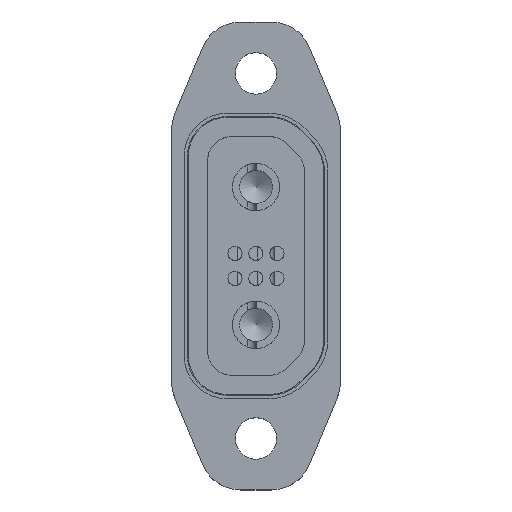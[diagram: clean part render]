
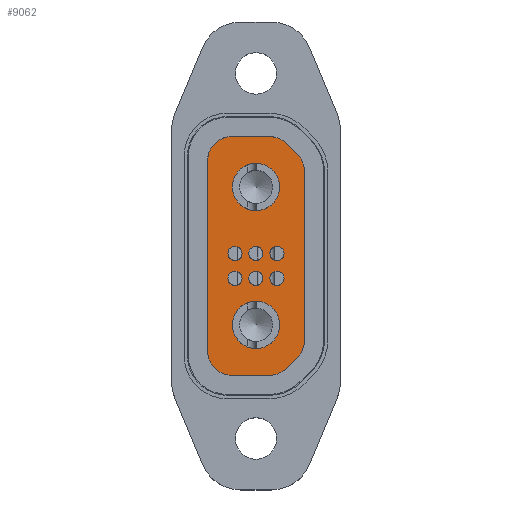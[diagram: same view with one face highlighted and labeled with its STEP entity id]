
A CAD part, top view. The second image highlights one B-rep face of the part: STEP entity #9062.
In plain terms, the highlighted planar face has unit normal (0, 0, 1).
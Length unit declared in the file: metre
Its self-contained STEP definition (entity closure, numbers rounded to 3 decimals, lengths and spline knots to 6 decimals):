
#385=CIRCLE('',#9674,0.0025);
#386=CIRCLE('',#9675,0.0025);
#387=CIRCLE('',#9676,0.00085);
#388=CIRCLE('',#9677,0.00085);
#389=CIRCLE('',#9678,0.00085);
#390=CIRCLE('',#9679,0.00085);
#391=CIRCLE('',#9680,0.00085);
#392=CIRCLE('',#9681,0.00085);
#393=CIRCLE('',#9682,0.0032);
#394=CIRCLE('',#9683,0.0032);
#395=CIRCLE('',#9684,0.0032);
#396=CIRCLE('',#9685,0.0032);
#397=CIRCLE('',#9686,0.003);
#398=CIRCLE('',#9687,0.003);
#1093=ORIENTED_EDGE('',*,*,#3763,.F.);
#1094=ORIENTED_EDGE('',*,*,#3764,.F.);
#1095=ORIENTED_EDGE('',*,*,#3765,.F.);
#1096=ORIENTED_EDGE('',*,*,#3766,.F.);
#1097=ORIENTED_EDGE('',*,*,#3767,.F.);
#1098=ORIENTED_EDGE('',*,*,#3768,.F.);
#1099=ORIENTED_EDGE('',*,*,#3769,.F.);
#1100=ORIENTED_EDGE('',*,*,#3770,.F.);
#1101=ORIENTED_EDGE('',*,*,#3771,.F.);
#1102=ORIENTED_EDGE('',*,*,#3772,.F.);
#1103=ORIENTED_EDGE('',*,*,#3773,.F.);
#1104=ORIENTED_EDGE('',*,*,#3774,.F.);
#1105=ORIENTED_EDGE('',*,*,#3775,.F.);
#1106=ORIENTED_EDGE('',*,*,#3776,.F.);
#1107=ORIENTED_EDGE('',*,*,#3777,.F.);
#1108=ORIENTED_EDGE('',*,*,#3778,.T.);
#1109=ORIENTED_EDGE('',*,*,#3779,.F.);
#1110=ORIENTED_EDGE('',*,*,#3780,.T.);
#1111=ORIENTED_EDGE('',*,*,#3781,.F.);
#1112=ORIENTED_EDGE('',*,*,#3782,.T.);
#3763=EDGE_CURVE('',#5090,#5090,#385,.T.);
#3764=EDGE_CURVE('',#5091,#5091,#386,.T.);
#3765=EDGE_CURVE('',#5092,#5092,#387,.T.);
#3766=EDGE_CURVE('',#5093,#5093,#388,.T.);
#3767=EDGE_CURVE('',#5094,#5094,#389,.T.);
#3768=EDGE_CURVE('',#5095,#5095,#390,.T.);
#3769=EDGE_CURVE('',#5096,#5096,#391,.T.);
#3770=EDGE_CURVE('',#5097,#5097,#392,.T.);
#3771=EDGE_CURVE('',#5098,#5099,#393,.T.);
#3772=EDGE_CURVE('',#5100,#5098,#5996,.T.);
#3773=EDGE_CURVE('',#5101,#5100,#394,.T.);
#3774=EDGE_CURVE('',#5102,#5101,#5997,.T.);
#3775=EDGE_CURVE('',#5103,#5102,#395,.T.);
#3776=EDGE_CURVE('',#5104,#5103,#5998,.T.);
#3777=EDGE_CURVE('',#5105,#5104,#396,.T.);
#3778=EDGE_CURVE('',#5105,#5106,#5999,.T.);
#3779=EDGE_CURVE('',#5107,#5106,#397,.T.);
#3780=EDGE_CURVE('',#5107,#5108,#6000,.T.);
#3781=EDGE_CURVE('',#5109,#5108,#398,.T.);
#3782=EDGE_CURVE('',#5109,#5099,#6001,.T.);
#5090=VERTEX_POINT('',#13399);
#5091=VERTEX_POINT('',#13401);
#5092=VERTEX_POINT('',#13403);
#5093=VERTEX_POINT('',#13405);
#5094=VERTEX_POINT('',#13407);
#5095=VERTEX_POINT('',#13409);
#5096=VERTEX_POINT('',#13411);
#5097=VERTEX_POINT('',#13413);
#5098=VERTEX_POINT('',#13415);
#5099=VERTEX_POINT('',#13416);
#5100=VERTEX_POINT('',#13418);
#5101=VERTEX_POINT('',#13420);
#5102=VERTEX_POINT('',#13422);
#5103=VERTEX_POINT('',#13424);
#5104=VERTEX_POINT('',#13426);
#5105=VERTEX_POINT('',#13428);
#5106=VERTEX_POINT('',#13430);
#5107=VERTEX_POINT('',#13432);
#5108=VERTEX_POINT('',#13434);
#5109=VERTEX_POINT('',#13436);
#5996=LINE('',#13417,#6693);
#5997=LINE('',#13421,#6694);
#5998=LINE('',#13425,#6695);
#5999=LINE('',#13429,#6696);
#6000=LINE('',#13433,#6697);
#6001=LINE('',#13437,#6698);
#6693=VECTOR('',#10722,1.);
#6694=VECTOR('',#10725,1.);
#6695=VECTOR('',#10728,1.);
#6696=VECTOR('',#10731,1.);
#6697=VECTOR('',#10734,1.);
#6698=VECTOR('',#10737,1.);
#7356=EDGE_LOOP('',(#1093));
#7357=EDGE_LOOP('',(#1094));
#7358=EDGE_LOOP('',(#1095));
#7359=EDGE_LOOP('',(#1096));
#7360=EDGE_LOOP('',(#1097));
#7361=EDGE_LOOP('',(#1098));
#7362=EDGE_LOOP('',(#1099));
#7363=EDGE_LOOP('',(#1100));
#7364=EDGE_LOOP('',(#1101,#1102,#1103,#1104,#1105,#1106,#1107,#1108,#1109,
#1110,#1111,#1112));
#8070=FACE_BOUND('',#7356,.T.);
#8071=FACE_BOUND('',#7357,.T.);
#8072=FACE_BOUND('',#7358,.T.);
#8073=FACE_BOUND('',#7359,.T.);
#8074=FACE_BOUND('',#7360,.T.);
#8075=FACE_BOUND('',#7361,.T.);
#8076=FACE_BOUND('',#7362,.T.);
#8077=FACE_BOUND('',#7363,.T.);
#8078=FACE_BOUND('',#7364,.T.);
#8796=PLANE('',#9673);
#9062=ADVANCED_FACE('',(#8070,#8071,#8072,#8073,#8074,#8075,#8076,#8077,
#8078),#8796,.T.);
#9673=AXIS2_PLACEMENT_3D('',#13397,#10702,#10703);
#9674=AXIS2_PLACEMENT_3D('',#13398,#10704,#10705);
#9675=AXIS2_PLACEMENT_3D('',#13400,#10706,#10707);
#9676=AXIS2_PLACEMENT_3D('',#13402,#10708,#10709);
#9677=AXIS2_PLACEMENT_3D('',#13404,#10710,#10711);
#9678=AXIS2_PLACEMENT_3D('',#13406,#10712,#10713);
#9679=AXIS2_PLACEMENT_3D('',#13408,#10714,#10715);
#9680=AXIS2_PLACEMENT_3D('',#13410,#10716,#10717);
#9681=AXIS2_PLACEMENT_3D('',#13412,#10718,#10719);
#9682=AXIS2_PLACEMENT_3D('',#13414,#10720,#10721);
#9683=AXIS2_PLACEMENT_3D('',#13419,#10723,#10724);
#9684=AXIS2_PLACEMENT_3D('',#13423,#10726,#10727);
#9685=AXIS2_PLACEMENT_3D('',#13427,#10729,#10730);
#9686=AXIS2_PLACEMENT_3D('',#13431,#10732,#10733);
#9687=AXIS2_PLACEMENT_3D('',#13435,#10735,#10736);
#10702=DIRECTION('',(0.,0.,1.));
#10703=DIRECTION('',(0.,-1.,0.));
#10704=DIRECTION('',(0.,0.,1.));
#10705=DIRECTION('',(1.,0.,0.));
#10706=DIRECTION('',(0.,0.,1.));
#10707=DIRECTION('',(1.,0.,0.));
#10708=DIRECTION('',(0.,0.,1.));
#10709=DIRECTION('',(0.,-1.,0.));
#10710=DIRECTION('',(0.,0.,1.));
#10711=DIRECTION('',(1.,0.,0.));
#10712=DIRECTION('',(0.,0.,1.));
#10713=DIRECTION('',(1.,0.,0.));
#10714=DIRECTION('',(0.,0.,1.));
#10715=DIRECTION('',(0.,-1.,0.));
#10716=DIRECTION('',(0.,0.,1.));
#10717=DIRECTION('',(1.,0.,0.));
#10718=DIRECTION('',(0.,0.,1.));
#10719=DIRECTION('',(1.,0.,0.));
#10720=DIRECTION('',(0.,0.,-1.));
#10721=DIRECTION('',(-1.,0.,0.));
#10722=DIRECTION('',(-0.707,-0.707,0.));
#10723=DIRECTION('',(0.,0.,-1.));
#10724=DIRECTION('',(-1.,0.,0.));
#10725=DIRECTION('',(0.,-1.,0.));
#10726=DIRECTION('',(0.,0.,-1.));
#10727=DIRECTION('',(-1.,0.,0.));
#10728=DIRECTION('',(0.707,-0.707,0.));
#10729=DIRECTION('',(0.,0.,-1.));
#10730=DIRECTION('',(-1.,0.,0.));
#10731=DIRECTION('',(-1.,0.,0.));
#10732=DIRECTION('',(0.,0.,-1.));
#10733=DIRECTION('',(-1.,0.,0.));
#10734=DIRECTION('',(0.,-1.,0.));
#10735=DIRECTION('',(0.,0.,-1.));
#10736=DIRECTION('',(-1.,0.,0.));
#10737=DIRECTION('',(1.,0.,0.));
#13397=CARTESIAN_POINT('',(-0.112069,-0.004,0.047));
#13398=CARTESIAN_POINT('',(-0.112069,-0.01231,0.047));
#13399=CARTESIAN_POINT('',(-0.109569,-0.01231,0.047));
#13400=CARTESIAN_POINT('',(-0.112069,0.00431,0.047));
#13401=CARTESIAN_POINT('',(-0.109569,0.00431,0.047));
#13402=CARTESIAN_POINT('',(-0.109541,-0.0037,0.047));
#13403=CARTESIAN_POINT('',(-0.109541,-0.00455,0.047));
#13404=CARTESIAN_POINT('',(-0.114604,-0.0067,0.047));
#13405=CARTESIAN_POINT('',(-0.113754,-0.0067,0.047));
#13406=CARTESIAN_POINT('',(-0.112104,-0.0067,0.047));
#13407=CARTESIAN_POINT('',(-0.111254,-0.0067,0.047));
#13408=CARTESIAN_POINT('',(-0.109541,-0.0067,0.047));
#13409=CARTESIAN_POINT('',(-0.109541,-0.00755,0.047));
#13410=CARTESIAN_POINT('',(-0.114604,-0.0037,0.047));
#13411=CARTESIAN_POINT('',(-0.113754,-0.0037,0.047));
#13412=CARTESIAN_POINT('',(-0.112104,-0.0037,0.047));
#13413=CARTESIAN_POINT('',(-0.111254,-0.0037,0.047));
#13414=CARTESIAN_POINT('',(-0.11053,-0.0152,0.047));
#13415=CARTESIAN_POINT('',(-0.108267,-0.017463,0.047));
#13416=CARTESIAN_POINT('',(-0.11053,-0.0184,0.047));
#13417=CARTESIAN_POINT('',(-0.107146,-0.016341,0.047));
#13418=CARTESIAN_POINT('',(-0.107146,-0.016341,0.047));
#13419=CARTESIAN_POINT('',(-0.109408,-0.014079,0.047));
#13420=CARTESIAN_POINT('',(-0.106208,-0.014079,0.047));
#13421=CARTESIAN_POINT('',(-0.106208,0.003079,0.047));
#13422=CARTESIAN_POINT('',(-0.106208,0.006079,0.047));
#13423=CARTESIAN_POINT('',(-0.109408,0.006079,0.047));
#13424=CARTESIAN_POINT('',(-0.107146,0.008341,0.047));
#13425=CARTESIAN_POINT('',(-0.108267,0.009463,0.047));
#13426=CARTESIAN_POINT('',(-0.108267,0.009463,0.047));
#13427=CARTESIAN_POINT('',(-0.11053,0.0072,0.047));
#13428=CARTESIAN_POINT('',(-0.11053,0.0104,0.047));
#13429=CARTESIAN_POINT('',(-0.113104,0.0104,0.047));
#13430=CARTESIAN_POINT('',(-0.11493,0.0104,0.047));
#13431=CARTESIAN_POINT('',(-0.11493,0.0074,0.047));
#13432=CARTESIAN_POINT('',(-0.11793,0.0074,0.047));
#13433=CARTESIAN_POINT('',(-0.11793,-0.004,0.047));
#13434=CARTESIAN_POINT('',(-0.11793,-0.0154,0.047));
#13435=CARTESIAN_POINT('',(-0.11493,-0.0154,0.047));
#13436=CARTESIAN_POINT('',(-0.11493,-0.0184,0.047));
#13437=CARTESIAN_POINT('',(-0.113104,-0.0184,0.047));
